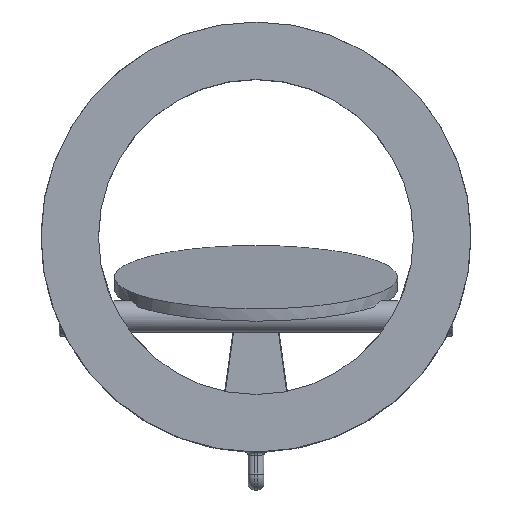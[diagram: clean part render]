
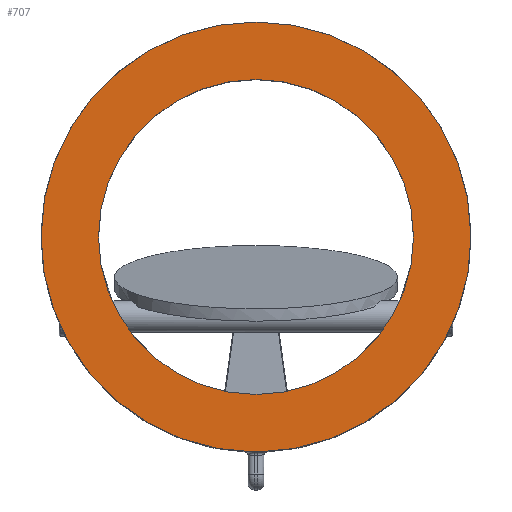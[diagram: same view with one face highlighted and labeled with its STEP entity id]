
A CAD part, top view. The second image highlights one B-rep face of the part: STEP entity #707.
In plain terms, the highlighted planar face has unit normal (0, 0, 1).
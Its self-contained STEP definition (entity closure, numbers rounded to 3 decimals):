
#707 = ADVANCED_FACE( '', ( #1471, #1472 ), #1473, .F. );
#1471 = FACE_OUTER_BOUND( '', #11910, .T. );
#1472 = FACE_BOUND( '', #11911, .T. );
#1473 = PLANE( '', #11912 );
#11910 = EDGE_LOOP( '', ( #14064, #14065 ) );
#11911 = EDGE_LOOP( '', ( #14066 ) );
#11912 = AXIS2_PLACEMENT_3D( '', #14067, #14068, #14069 );
#14064 = ORIENTED_EDGE( '', *, *, #14845, .F. );
#14065 = ORIENTED_EDGE( '', *, *, #14910, .F. );
#14066 = ORIENTED_EDGE( '', *, *, #14571, .F. );
#14067 = CARTESIAN_POINT( '', ( 0., 0., 44.5 ) );
#14068 = DIRECTION( '', ( 0., 0., -1. ) );
#14069 = DIRECTION( '', ( -1., 0., 0. ) );
#14571 = EDGE_CURVE( '', #15636, #15636, #15637, .T. );
#14845 = EDGE_CURVE( '', #15346, #15749, #15993, .T. );
#14910 = EDGE_CURVE( '', #15749, #15346, #16063, .T. );
#15346 = VERTEX_POINT( '', #18593 );
#15636 = VERTEX_POINT( '', #21383 );
#15637 = CIRCLE( '', #21384, 100. );
#15749 = VERTEX_POINT( '', #22492 );
#15993 = CIRCLE( '', #24771, 136.5 );
#16063 = CIRCLE( '', #25002, 136.5 );
#18593 = CARTESIAN_POINT( '', ( 0.986, -136.496, 44.5 ) );
#21383 = CARTESIAN_POINT( '', ( 100., 0., 44.5 ) );
#21384 = AXIS2_PLACEMENT_3D( '', #25168, #25169, #25170 );
#22492 = CARTESIAN_POINT( '', ( -0.986, -136.496, 44.5 ) );
#24771 = AXIS2_PLACEMENT_3D( '', #25247, #25248, #25249 );
#25002 = AXIS2_PLACEMENT_3D( '', #25253, #25254, #25255 );
#25168 = CARTESIAN_POINT( '', ( 0., 0., 44.5 ) );
#25169 = DIRECTION( '', ( 0., 0., 1. ) );
#25170 = DIRECTION( '', ( 1., 0., 0. ) );
#25247 = CARTESIAN_POINT( '', ( 0., 0., 44.5 ) );
#25248 = DIRECTION( '', ( 0., 0., -1. ) );
#25249 = DIRECTION( '', ( 1., 0., 0. ) );
#25253 = CARTESIAN_POINT( '', ( 0., 0., 44.5 ) );
#25254 = DIRECTION( '', ( 0., 0., -1. ) );
#25255 = DIRECTION( '', ( 1., 0., 0. ) );
